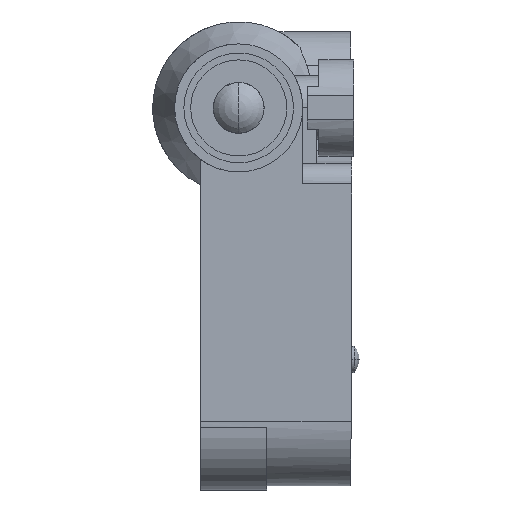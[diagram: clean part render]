
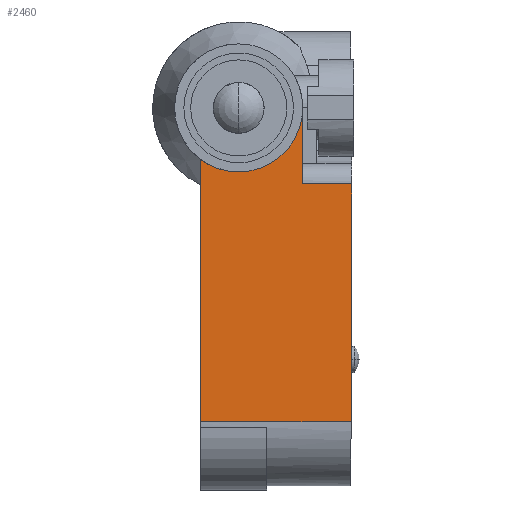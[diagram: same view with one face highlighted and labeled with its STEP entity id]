
A CAD part, left-side view. The second image highlights one B-rep face of the part: STEP entity #2460.
In plain terms, the highlighted planar face has unit normal (-1, 0, 0).
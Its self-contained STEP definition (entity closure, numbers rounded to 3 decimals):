
#1540=CARTESIAN_POINT('',(31.78,-6.437,
-4.75));
#1550=VERTEX_POINT('',#1540);
#1580=CARTESIAN_POINT('',(31.78,0.,
-4.75));
#1590=DIRECTION('',(0.,1.,0.));
#1600=VECTOR('',#1590,1.);
#1610=LINE('',#1580,#1600);
#1620=CARTESIAN_POINT('',(31.78,-39.207,
-4.75));
#1630=VERTEX_POINT('',#1620);
#1640=EDGE_CURVE('',#1630,#1550,#1610,.T.);
#1940=CARTESIAN_POINT('',(31.78,-36.126,-3.5));
#1950=DIRECTION('',(-1.,0.,0.));
#1960=DIRECTION('',(0.,-1.,0.));
#1970=AXIS2_PLACEMENT_3D('',#1940,#1950,#1960);
#1980=PLANE('',#1970);
#1990=CARTESIAN_POINT('',(31.78,-39.207,
-13.344));
#2000=DIRECTION('',(0.,0.,1.));
#2010=VECTOR('',#2000,1.);
#2020=LINE('',#1990,#2010);
#2030=CARTESIAN_POINT('',(31.78,-39.207,
14.047));
#2040=VERTEX_POINT('',#2030);
#2050=EDGE_CURVE('',#1630,#2040,#2020,.T.);
#2060=ORIENTED_EDGE('',*,*,#2050,.T.);
#2070=ORIENTED_EDGE('',*,*,#1640,.F.);
#2080=CARTESIAN_POINT('',(31.78,0.,0.));
#2090=DIRECTION('',(-1.,0.,0.));
#2100=DIRECTION('',(0.,-1.,0.));
#2110=AXIS2_PLACEMENT_3D('',#2080,#2090,#2100);
#2120=CIRCLE('',#2110,8.);
#2130=CARTESIAN_POINT('',(31.78,-8.,0.));
#2140=VERTEX_POINT('',#2130);
#2150=EDGE_CURVE('',#1550,#2140,#2120,.T.);
#2160=ORIENTED_EDGE('',*,*,#2150,.F.);
#2170=CARTESIAN_POINT('',(31.78,0.,8.));
#2180=VERTEX_POINT('',#2170);
#2190=EDGE_CURVE('',#2140,#2180,#2120,.T.);
#2200=ORIENTED_EDGE('',*,*,#2190,.F.);
#2210=CARTESIAN_POINT('',(31.78,0.,
8.));
#2220=DIRECTION('',(0.,-1.,0.));
#2230=VECTOR('',#2220,1.);
#2240=LINE('',#2210,#2230);
#2250=CARTESIAN_POINT('',(31.78,-9.5,
8.));
#2260=VERTEX_POINT('',#2250);
#2270=EDGE_CURVE('',#2180,#2260,#2240,.T.);
#2280=ORIENTED_EDGE('',*,*,#2270,.F.);
#2290=CARTESIAN_POINT('',(31.78,-9.5,11.5));
#2300=DIRECTION('',(0.,0.,-1.));
#2310=VECTOR('',#2300,1.);
#2320=LINE('',#2290,#2310);
#2330=CARTESIAN_POINT('',(31.78,-9.5,
14.128));
#2340=VERTEX_POINT('',#2330);
#2350=EDGE_CURVE('',#2340,#2260,#2320,.T.);
#2360=ORIENTED_EDGE('',*,*,#2350,.T.);
#2370=CARTESIAN_POINT('',(31.78,-18.9,-1985.85));
#2380=DIRECTION('',(1.,0.,0.));
#2390=DIRECTION('',(0.,1.,0.));
#2400=AXIS2_PLACEMENT_3D('',#2370,#2380,#2390);
#2410=CIRCLE('',#2400,2000.);
#2420=EDGE_CURVE('',#2340,#2040,#2410,.T.);
#2430=ORIENTED_EDGE('',*,*,#2420,.F.);
#2440=EDGE_LOOP('',(#2430,#2360,#2280,#2200,#2160,#2070,#2060));
#2450=FACE_OUTER_BOUND('',#2440,.T.);
#2460=ADVANCED_FACE('',(#2450),#1980,.T.);
